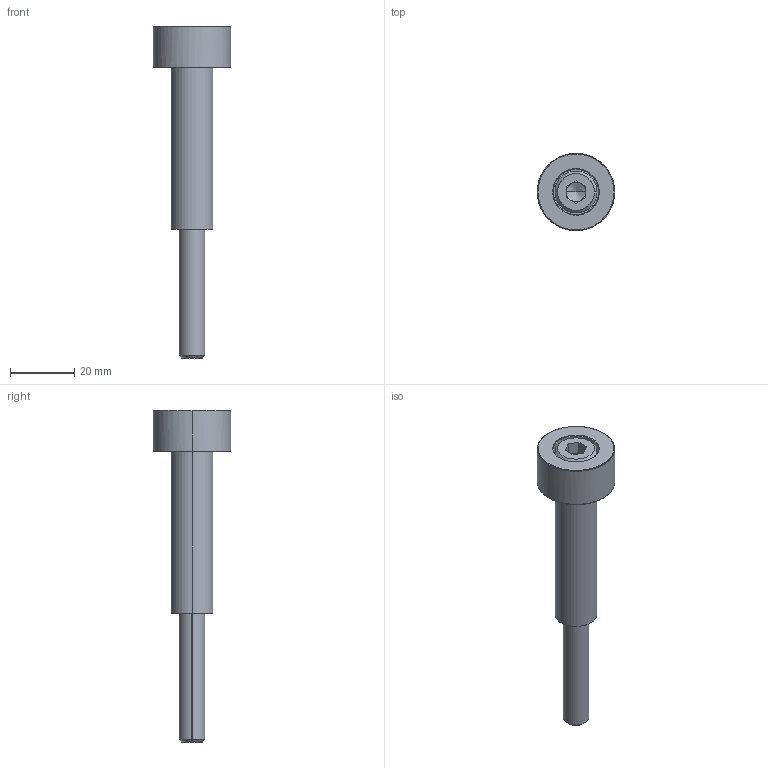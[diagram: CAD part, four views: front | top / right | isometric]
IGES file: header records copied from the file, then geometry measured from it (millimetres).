
Global section: file name: E:\UnigraphicsGraphicData\MISUMI_PRESS-PARTS\IGES\3d_sbjh13-50-95_05045_r00.igs; native system: NX V5.0; preprocessor: UGS NX IGES V5.0; author: MISUMI; date: 20110105.162425; units: millimetre
Bounding box: 24 x 23.94 x 103 mm (x, y, z)
Surface area: 8738 mm2 (no closed solid volume)
Topology: 0 solids, 0 shells, 48 faces, 276 edges, 274 vertices
Faces by surface type: bspline 48
